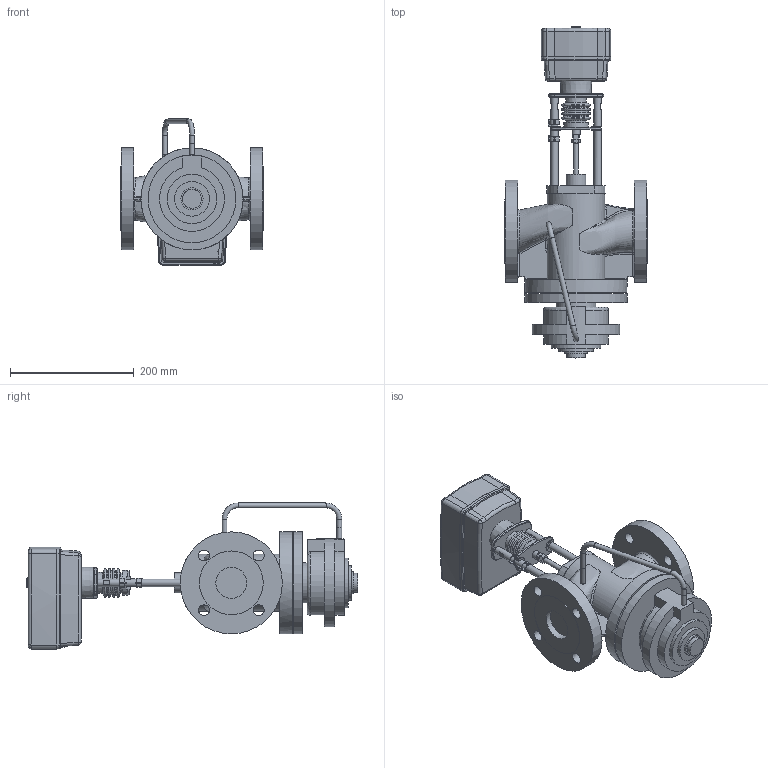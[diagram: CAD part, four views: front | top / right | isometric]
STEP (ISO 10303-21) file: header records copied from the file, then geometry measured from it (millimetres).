
FILE_DESCRIPTION(/* description */ ('Unknown'),/* implementation_level */ '2;1');
FILE_NAME(/* name */ 'Клапан TVC-50-101',/* time_stamp */ '2021-11-23T13:19:43+03:00',/* author */ ('Unknown'),/* organization */ ('Unknown'),/* preprocessor_version */ 'ST-DEVELOPER v16.7',/* originating_system */ 'DEX',/* authorisation */ $);
FILE_SCHEMA (('AUTOMOTIVE_DESIGN {1 0 10303 214 3 1 1}'));
Length unit declared in the file: millimetre
Products named in the file (1): 抔黽鳧 TVC-50-101
Bounding box: 230 x 536.6 x 236.07 mm (x, y, z)
Volume: 5377980 mm3; surface area: 444295.1 mm2
Topology: 1 solids, 3 shells, 452 faces, 1132 edges, 702 vertices
Faces by surface type: plane 196, cylinder 118, torus 43, cone 41, bspline 40, sphere 14
Full cylindrical faces by diameter (mm): 6 x3, 6.5 x1, 6.8 x1, 8 x4, 12.002 x4, 13 x1, 15 x1, 17.7 x8, 30.68 x1, 31.968 x1, 33.4 x1, 33.972 x1, 36 x1, 40 x1, 50 x2, 56 x1, 64.624 x1, 80 x1, 92.545 x1, 103 x3, 142 x1, 165 x4
Entity records: 19017 total; most frequent: CARTESIAN_POINT 5784, DIRECTION 2086, ORIENTED_EDGE 1984, EDGE_CURVE 992, AXIS2_PLACEMENT_3D 823, VERTEX_POINT 652, EDGE_LOOP 586, FACE_BOUND 586
